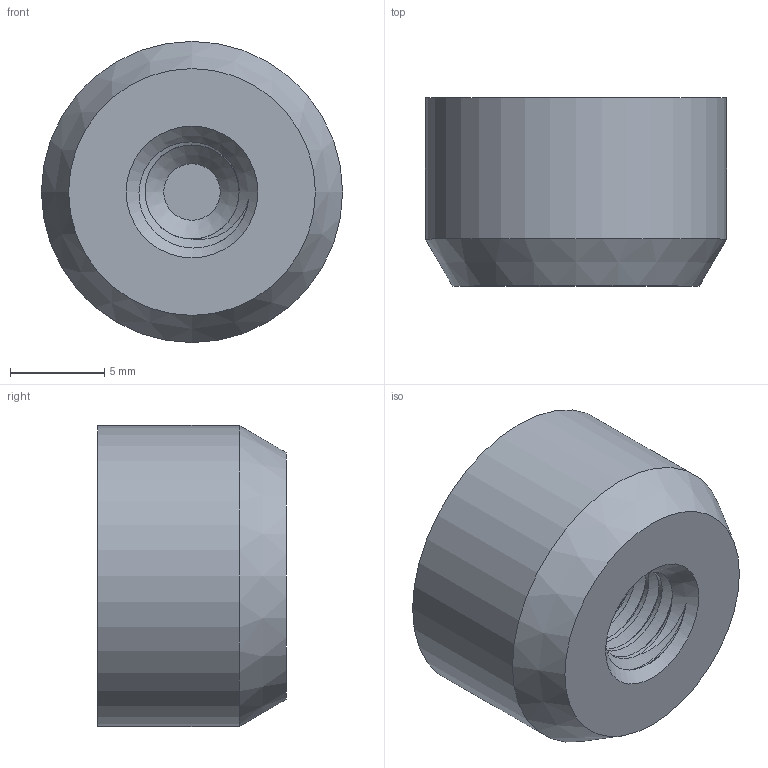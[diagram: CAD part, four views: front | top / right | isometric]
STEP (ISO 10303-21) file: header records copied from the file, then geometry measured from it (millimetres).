
FILE_DESCRIPTION (( 'STEP AP214' ), '1' );
FILE_NAME ('PET-16.STEP', '2018-10-09T18:02:22', ( '' ), ( '' ), 'SwSTEP 2.0', 'SolidWorks 2017', '' );
FILE_SCHEMA (( 'AUTOMOTIVE_DESIGN' ));
Length unit declared in the file: millimetre
Products named in the file (1): PET-16
Bounding box: 16 x 10 x 16 mm (x, y, z)
Volume: 1737.4 mm3; surface area: 1038.7 mm2
Topology: 1 solids, 1 shells, 107 faces, 289 edges, 192 vertices
Faces by surface type: plane 72, bspline 25, cylinder 7, cone 3
Full cylindrical faces by diameter (mm): 5 x6, 16 x1
Entity records: 4776 total; most frequent: CARTESIAN_POINT 2436, ORIENTED_EDGE 534, DIRECTION 356, EDGE_CURVE 267, LINE 186, VECTOR 186, VERTEX_POINT 180, EDGE_LOOP 115
